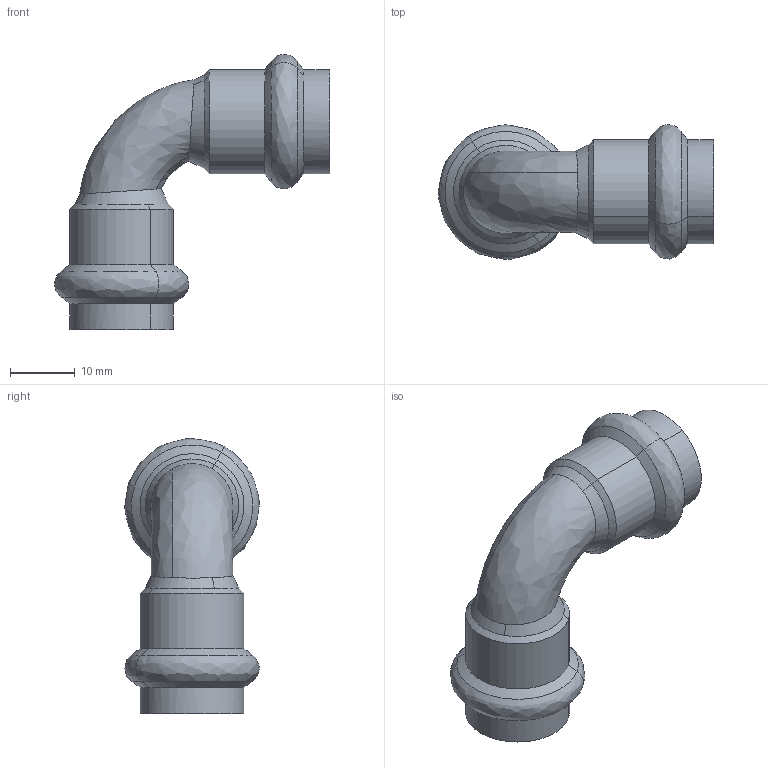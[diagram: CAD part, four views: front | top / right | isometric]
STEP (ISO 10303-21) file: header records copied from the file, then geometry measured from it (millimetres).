
FILE_DESCRIPTION(('STEP AP214'),'1');
FILE_NAME('pim0004428.stp','2015-04-30T05:03:36',('Cad-Pim'),('TransMagic, Inc.'),'TMR11sp0','TransMagic R11',' ');
FILE_SCHEMA(('AUTOMOTIVE_DESIGN'));
Length unit declared in the file: millimetre
Products named in the file (1): pim0004428
Bounding box: 42.34 x 20.69 x 42.34 mm (x, y, z)
Volume: 6819.3 mm3; surface area: 4957.4 mm2
Topology: 1 solids, 1 shells, 38 faces, 98 edges, 64 vertices
Faces by surface type: bspline 14, cylinder 12, cone 12
Entity records: 2024 total; most frequent: CARTESIAN_POINT 909, ORIENTED_EDGE 196, DIRECTION 134, EDGE_CURVE 98, VERTEX_POINT 64, AXIS2_PLACEMENT_3D 53, EDGE_LOOP 40, STYLED_ITEM 39
